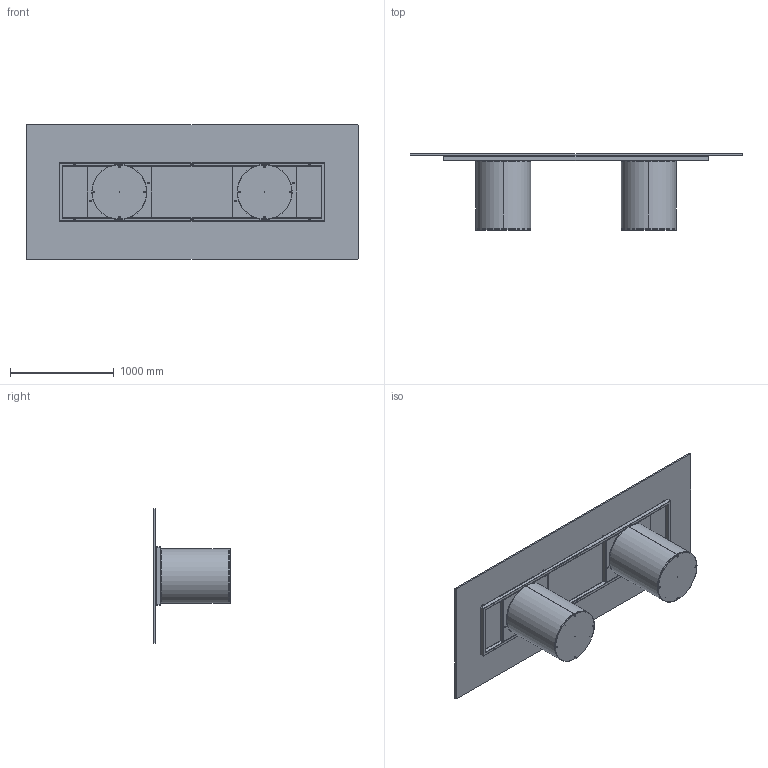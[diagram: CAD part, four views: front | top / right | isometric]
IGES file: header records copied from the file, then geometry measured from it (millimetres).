
Start section: SolidWorks IGES file using analytic representation for surfaces
Global section: file name: Y:\eforma\TECNICO\SOLIDWORKS\E-FORMA\1-TAVOLI\CILINDRO\02 parts\CI25G.IGS; native system: SolidWorks 2022; preprocessor: SolidWorks 2022; author: eforma.tech; date: 240808.091020; units: millimetre
Bounding box: 3200 x 735 x 1300 mm (x, y, z)
Volume: 77074536.8 mm3; surface area: 17529634 mm2
Topology: 38 solids, 38 shells, 974 faces, 2216 edges, 1276 vertices
Faces by surface type: revolution 528, plane 446
